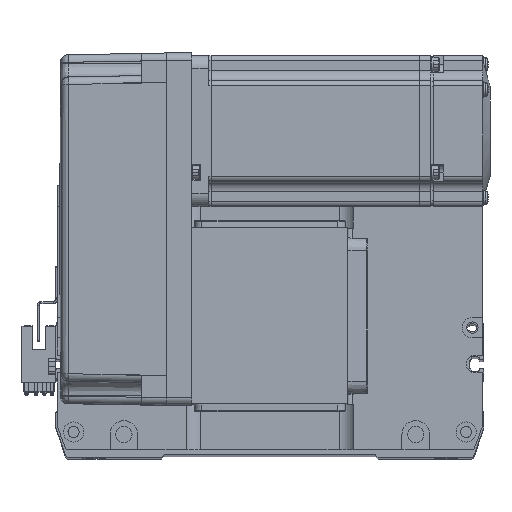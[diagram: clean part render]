
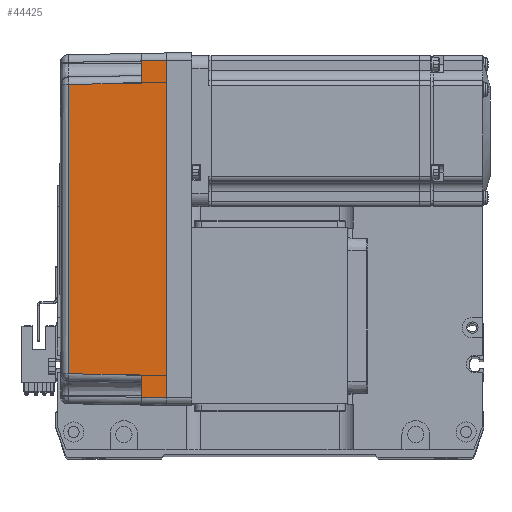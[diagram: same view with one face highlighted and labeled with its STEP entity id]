
A CAD part, top view. The second image highlights one B-rep face of the part: STEP entity #44425.
In plain terms, the highlighted planar face has unit normal (-0.018, 0, 1) as drawn and (0, 1, 0.017) by its records, which use the part's own axes.
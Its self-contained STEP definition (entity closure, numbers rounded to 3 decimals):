
#2299 = ORIENTED_EDGE ( 'NONE', *, *, #42677, .T. ) ;
#4191 = VECTOR ( 'NONE', #15861, 1000. ) ;
#4773 = DIRECTION ( 'NONE',  ( 0.017, 0.017, -1. ) ) ;
#7499 = CARTESIAN_POINT ( 'NONE',  ( 70., 35.825, 10. ) ) ;
#10048 = VERTEX_POINT ( 'NONE', #12165 ) ;
#10549 = VERTEX_POINT ( 'NONE', #25796 ) ;
#10987 = DIRECTION ( 'NONE',  ( 0., 1., 0.017 ) ) ;
#11203 = VECTOR ( 'NONE', #4773, 1000. ) ;
#11521 = CARTESIAN_POINT ( 'NONE',  ( -58., 35.825, 10. ) ) ;
#12165 = CARTESIAN_POINT ( 'NONE',  ( -67., 36., 0. ) ) ;
#12868 = EDGE_CURVE ( 'NONE', #20620, #10549, #57278, .T. ) ;
#14275 = CARTESIAN_POINT ( 'NONE',  ( -57.495, 35.32, 38.985 ) ) ;
#14890 = CARTESIAN_POINT ( 'NONE',  ( 19.165, 35.316, 39.181 ) ) ;
#15064 = DIRECTION ( 'NONE',  ( 1., 0., 0. ) ) ;
#15415 = VECTOR ( 'NONE', #50480, 1000. ) ;
#15861 = DIRECTION ( 'NONE',  ( 0.017, -0.017, 1. ) ) ;
#16786 = EDGE_LOOP ( 'NONE', ( #18105, #44008, #26058, #2299, #22482, #40971, #43071, #18468 ) ) ;
#17085 = CARTESIAN_POINT ( 'NONE',  ( 67., 36., 0. ) ) ;
#17612 = CARTESIAN_POINT ( 'NONE',  ( 67.001, 36.001, -0.052 ) ) ;
#17759 = LINE ( 'NONE', #55547, #25110 ) ;
#18105 = ORIENTED_EDGE ( 'NONE', *, *, #36369, .T. ) ;
#18468 = ORIENTED_EDGE ( 'NONE', *, *, #49230, .F. ) ;
#19387 = EDGE_CURVE ( 'NONE', #30395, #40184, #30393, .T. ) ;
#19897 = CARTESIAN_POINT ( 'NONE',  ( 0., 36., 0. ) ) ;
#20620 = VERTEX_POINT ( 'NONE', #58775 ) ;
#21583 = EDGE_CURVE ( 'NONE', #42058, #42082, #29322, .T. ) ;
#22482 = ORIENTED_EDGE ( 'NONE', *, *, #12868, .T. ) ;
#23742 = VECTOR ( 'NONE', #15064, 1000. ) ;
#24086 = CARTESIAN_POINT ( 'NONE',  ( -19.165, 35.316, 39.181 ) ) ;
#24599 = DIRECTION ( 'NONE',  ( 1., 0., 0. ) ) ;
#24711 = PLANE ( 'NONE',  #51172 ) ;
#25110 = VECTOR ( 'NONE', #41229, 1000. ) ;
#25796 = CARTESIAN_POINT ( 'NONE',  ( 58., 35.825, 10. ) ) ;
#26058 = ORIENTED_EDGE ( 'NONE', *, *, #33377, .T. ) ;
#27635 = FACE_OUTER_BOUND ( 'NONE', #16786, .T. ) ;
#27880 = CARTESIAN_POINT ( 'NONE',  ( -57.495, 35.32, 38.985 ) ) ;
#29322 = LINE ( 'NONE', #17612, #15415 ) ;
#30015 = CARTESIAN_POINT ( 'NONE',  ( -58., 35.825, 10. ) ) ;
#30393 = LINE ( 'NONE', #7499, #57372 ) ;
#30395 = VERTEX_POINT ( 'NONE', #49790 ) ;
#33377 = EDGE_CURVE ( 'NONE', #40184, #49142, #47412, .T. ) ;
#33628 = CARTESIAN_POINT ( 'NONE',  ( 70., 35.825, 10. ) ) ;
#34467 = CARTESIAN_POINT ( 'NONE',  ( 70., 36., 0. ) ) ;
#36369 = EDGE_CURVE ( 'NONE', #10048, #30395, #17759, .T. ) ;
#37624 = B_SPLINE_CURVE_WITH_KNOTS ( 'NONE', 3,
 ( #14275, #24086, #14890, #42434 ),
 .UNSPECIFIED., .F., .F.,
 ( 4, 4 ),
 ( 0., 1. ),
 .UNSPECIFIED. ) ;
#40184 = VERTEX_POINT ( 'NONE', #30015 ) ;
#40781 = CARTESIAN_POINT ( 'NONE',  ( 66.826, 35.825, 10. ) ) ;
#40971 = ORIENTED_EDGE ( 'NONE', *, *, #51654, .T. ) ;
#41048 = DIRECTION ( 'NONE',  ( 1., 0., 0. ) ) ;
#41229 = DIRECTION ( 'NONE',  ( 0.017, -0.017, 1. ) ) ;
#42058 = VERTEX_POINT ( 'NONE', #17085 ) ;
#42082 = VERTEX_POINT ( 'NONE', #40781 ) ;
#42434 = CARTESIAN_POINT ( 'NONE',  ( 57.495, 35.32, 38.985 ) ) ;
#42677 = EDGE_CURVE ( 'NONE', #49142, #20620, #37624, .T. ) ;
#43071 = ORIENTED_EDGE ( 'NONE', *, *, #21583, .F. ) ;
#44008 = ORIENTED_EDGE ( 'NONE', *, *, #19387, .T. ) ;
#44425 = ADVANCED_FACE ( 'NONE', ( #27635 ), #24711, .T. ) ;
#46725 = CARTESIAN_POINT ( 'NONE',  ( 57.495, 35.32, 38.985 ) ) ;
#47412 = LINE ( 'NONE', #11521, #4191 ) ;
#48569 = LINE ( 'NONE', #33628, #23742 ) ;
#49142 = VERTEX_POINT ( 'NONE', #27880 ) ;
#49230 = EDGE_CURVE ( 'NONE', #10048, #42058, #52875, .T. ) ;
#49790 = CARTESIAN_POINT ( 'NONE',  ( -66.826, 35.825, 10. ) ) ;
#49930 = VECTOR ( 'NONE', #24599, 1000. ) ;
#50480 = DIRECTION ( 'NONE',  ( -0.017, -0.017, 1. ) ) ;
#51172 = AXIS2_PLACEMENT_3D ( 'NONE', #34467, #10987, #53473 ) ;
#51654 = EDGE_CURVE ( 'NONE', #10549, #42082, #48569, .T. ) ;
#52875 = LINE ( 'NONE', #19897, #49930 ) ;
#53473 = DIRECTION ( 'NONE',  ( 0., -0.017, 1. ) ) ;
#55547 = CARTESIAN_POINT ( 'NONE',  ( -67., 36., 0. ) ) ;
#57278 = LINE ( 'NONE', #46725, #11203 ) ;
#57372 = VECTOR ( 'NONE', #41048, 1000. ) ;
#58775 = CARTESIAN_POINT ( 'NONE',  ( 57.495, 35.32, 38.985 ) ) ;
